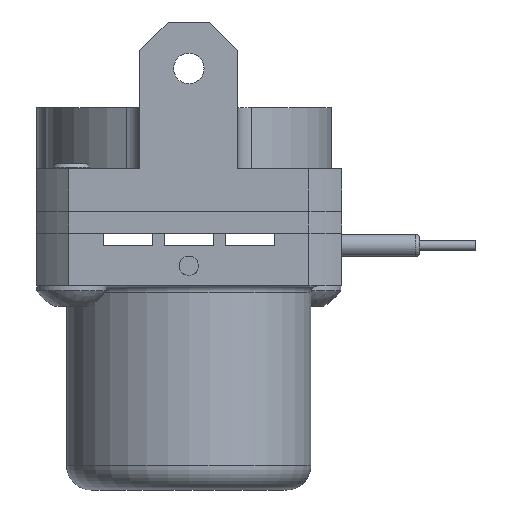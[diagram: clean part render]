
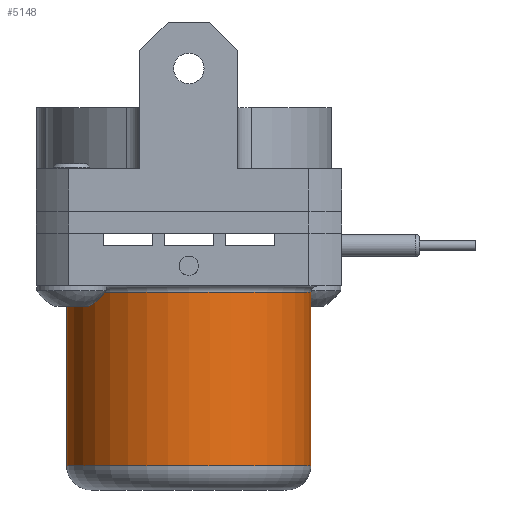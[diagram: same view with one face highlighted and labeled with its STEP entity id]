
A CAD part, front view. The second image highlights one B-rep face of the part: STEP entity #5148.
In plain terms, the highlighted cylindrical face has radius 10 mm (diameter 20 mm), a full revolution.
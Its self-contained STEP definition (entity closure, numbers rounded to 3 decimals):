
#54 = EDGE_LOOP ( 'NONE', ( #5999 ) ) ;
#108 = DIRECTION ( 'NONE',  ( 1., 0., 0. ) ) ;
#542 = CIRCLE ( 'NONE', #3086, 10. ) ;
#587 = CARTESIAN_POINT ( 'NONE',  ( 10., 0., -4.8 ) ) ;
#726 = DIRECTION ( 'NONE',  ( 0., 0., 1. ) ) ;
#744 = CARTESIAN_POINT ( 'NONE',  ( 0., 0., -19. ) ) ;
#1092 = CYLINDRICAL_SURFACE ( 'NONE', #6195, 10. ) ;
#1184 = DIRECTION ( 'NONE',  ( 0., 0., 1. ) ) ;
#1735 = CARTESIAN_POINT ( 'NONE',  ( 0., 0., -21. ) ) ;
#2056 = EDGE_LOOP ( 'NONE', ( #4785 ) ) ;
#2993 = DIRECTION ( 'NONE',  ( 0., 0., -1. ) ) ;
#3086 = AXIS2_PLACEMENT_3D ( 'NONE', #6174, #2993, #3529 ) ;
#3529 = DIRECTION ( 'NONE',  ( 1., 0., 0. ) ) ;
#3701 = CARTESIAN_POINT ( 'NONE',  ( -10., 0., -19. ) ) ;
#3777 = EDGE_CURVE ( 'NONE', #6304, #6304, #542, .T. ) ;
#3941 = DIRECTION ( 'NONE',  ( -1., 0., 0. ) ) ;
#4175 = VERTEX_POINT ( 'NONE', #3701 ) ;
#4425 = FACE_OUTER_BOUND ( 'NONE', #2056, .T. ) ;
#4464 = AXIS2_PLACEMENT_3D ( 'NONE', #744, #726, #3941 ) ;
#4785 = ORIENTED_EDGE ( 'NONE', *, *, #3777, .T. ) ;
#5148 = ADVANCED_FACE ( 'NONE', ( #4425, #5995 ), #1092, .T. ) ;
#5995 = FACE_OUTER_BOUND ( 'NONE', #54, .T. ) ;
#5999 = ORIENTED_EDGE ( 'NONE', *, *, #6705, .T. ) ;
#6059 = CIRCLE ( 'NONE', #4464, 10. ) ;
#6174 = CARTESIAN_POINT ( 'NONE',  ( 0., 0., -4.8 ) ) ;
#6195 = AXIS2_PLACEMENT_3D ( 'NONE', #1735, #1184, #108 ) ;
#6304 = VERTEX_POINT ( 'NONE', #587 ) ;
#6705 = EDGE_CURVE ( 'NONE', #4175, #4175, #6059, .T. ) ;
